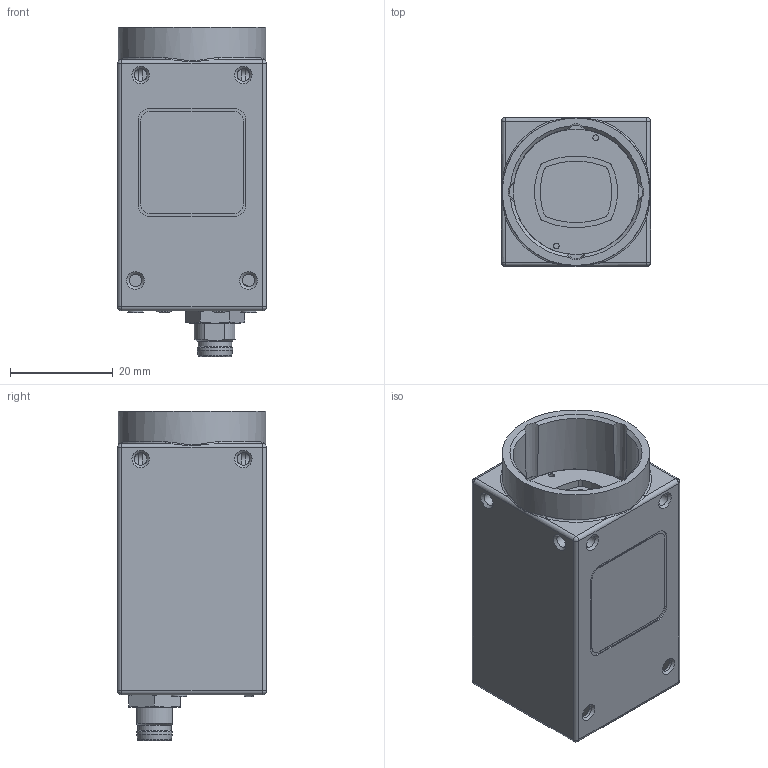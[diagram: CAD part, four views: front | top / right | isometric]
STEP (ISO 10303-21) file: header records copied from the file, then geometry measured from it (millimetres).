
FILE_DESCRIPTION( ( 'Unknown' ), '1' );
FILE_NAME( 'C:/Users/rih/Desktop/11165949_VCXG-32M.stp', '14.10.2014', ( 'Unknown' ), ( 'Unknown' ), 'PSStep 15.0.49', 'Unknown', ' ' );
FILE_SCHEMA( ( 'AUTOMOTIVE_DESIGN { 1 0 10303 214 1 1 1 1 }' ) );
Length unit declared in the file: millimetre
Products named in the file (4): 11080147
Bounding box: 29 x 29 x 64.05 mm (x, y, z)
Volume: 13377.7 mm3; surface area: 22918 mm2
Topology: 4 solids, 10 shells, 2466 faces, 6484 edges, 4250 vertices
Faces by surface type: plane 1419, cylinder 830, cone 72, torus 53, sphere 48, bspline 36, extrusion 8
Full cylindrical faces by diameter (mm): 0.217 x1, 0.6 x242, 1.1 x2, 1.4 x4, 1.567 x2, 1.6 x2, 1.9 x4, 2.459 x10, 3 x4, 6.5 x1, 6.9 x1, 8.4 x1, 9 x1, 9.4 x1, 24.4 x1, 26 x1, 28.7 x1
Entity records: 95287 total; most frequent: CARTESIAN_POINT 17071, DIRECTION 12131, ORIENTED_EDGE 11652, EDGE_CURVE 5826, AXIS2_PLACEMENT_3D 4311, VERTEX_POINT 3953, VECTOR 3509, LINE 3501
